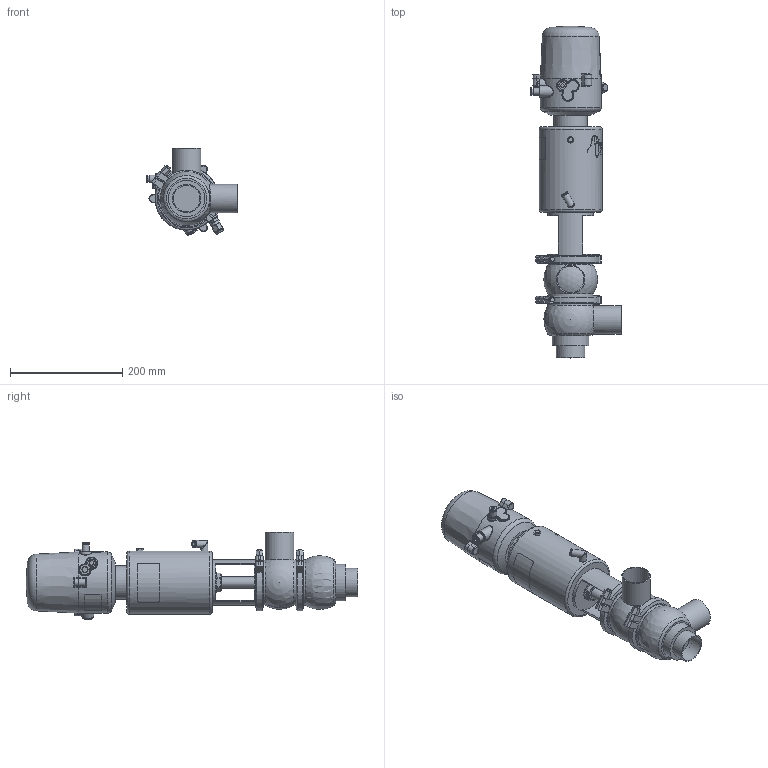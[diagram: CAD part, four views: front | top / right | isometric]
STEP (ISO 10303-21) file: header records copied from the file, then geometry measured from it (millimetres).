
FILE_DESCRIPTION (( 'STEP AP214' ), '1' );
FILE_NAME ('INNOVA K H W OD 2 T2 AS NC & C-TOP S_10.240.16.0073.STEP', '2024-08-06T08:55:03', ( '' ), ( '' ), 'SwSTEP 2.0', 'SolidWorks 2023', '' );
FILE_SCHEMA (( 'AUTOMOTIVE_DESIGN' ));
Length unit declared in the file: millimetre
Products named in the file (8): 10.240.15.0010_DN 050; 10.240.15.0014_T2 AS P0; 10.240.15.0001_DN 050; 10.426.15.0001_C-TOP S - 1 EV; 10.240.15.0006_OD 2"; 10.240.15.0017_Estàndard; INNOVA K H W OD 2 T2 AS NC & C-TOP S_10.240.16.0073; 10.240.15.0002_OD 2"
Assembly tree (8 placements, depth 2):
  INNOVA K H W OD 2 T2 AS NC & C-TOP S_10.240.16.0073
    10.240.15.0006_OD 2"
    10.240.15.0002_OD 2"
    10.240.15.0010_DN 050
    10.240.15.0014_T2 AS P0
    10.240.15.0017_Estàndard
    10.426.15.0001_C-TOP S - 1 EV
    10.240.15.0001_DN 050  x2
Bounding box: 161 x 592 x 156.63 mm (x, y, z)
Volume: 4099914 mm3; surface area: 351590 mm2
Topology: 8 solids, 8 shells, 1172 faces, 2828 edges, 1882 vertices
Faces by surface type: plane 410, cylinder 356, cone 201, bspline 160, torus 37, sphere 8
Full cylindrical faces by diameter (mm): 0.371 x17, 0.512 x16, 0.658 x16, 0.795 x16, 0.94 x15, 1.098 x15, 1.241 x13, 1.382 x13, 1.523 x11, 1.669 x10, 2.201 x1, 4 x2, 5.5 x2, 6 x2, 6.15 x1, 8 x6, 8.5 x1, 10 x1, 10.5 x1, 11 x2, 12.5 x3, 13 x2, 13.5 x2, 16 x1, 17 x3, 20 x3, 20.5 x1, 22 x2, 31 x1, 34.5 x3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
Entity records: 58040 total; most frequent: CARTESIAN_POINT 27843, ORIENTED_EDGE 4510, DIRECTION 3647, EDGE_CURVE 2255, VERTEX_POINT 1605, EDGE_LOOP 1570, AXIS2_PLACEMENT_3D 1495, FACE_OUTER_BOUND 1331
